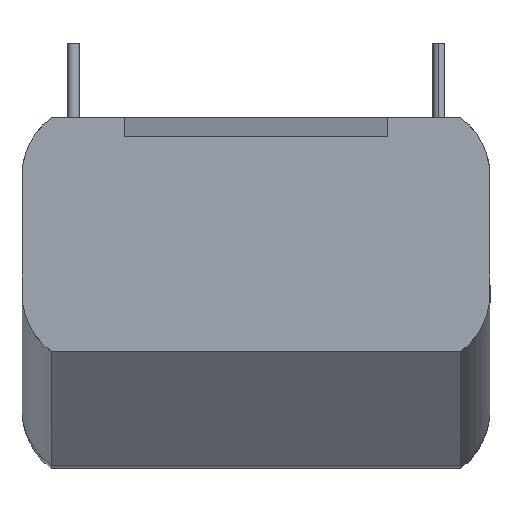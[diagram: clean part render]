
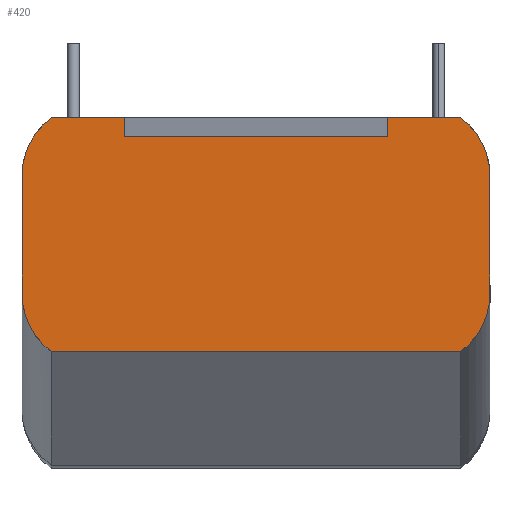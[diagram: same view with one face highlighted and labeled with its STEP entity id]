
A CAD part, left-side view. The second image highlights one B-rep face of the part: STEP entity #420.
In plain terms, the highlighted planar face has unit normal (-1, 0, 0).
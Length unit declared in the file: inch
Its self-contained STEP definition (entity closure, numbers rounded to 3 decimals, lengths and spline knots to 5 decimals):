
#267=B_SPLINE_CURVE_WITH_KNOTS('',3,(#1352,#1353,#1354,#1355,#1356,#1357,
#1358,#1359,#1360,#1361,#1362,#1363,#1364,#1365),.UNSPECIFIED.,.F.,.F.,
(4,2,2,2,2,2,4),(0.,0.125,0.25,0.5,0.625,0.75,
1.),.UNSPECIFIED.);
#268=B_SPLINE_CURVE_WITH_KNOTS('',3,(#1373,#1374,#1375,#1376,#1377,#1378,
#1379,#1380,#1381,#1382,#1383,#1384,#1385,#1386),.UNSPECIFIED.,.F.,.F.,
(4,2,2,2,2,2,4),(0.,0.125,0.25,0.5,0.625,
0.75,1.),.UNSPECIFIED.);
#271=B_SPLINE_CURVE_WITH_KNOTS('',3,(#1414,#1415,#1416,#1417,#1418,#1419,
#1420,#1421,#1422,#1423,#1424,#1425,#1426,#1427),.UNSPECIFIED.,.F.,.F.,
(4,2,2,2,2,2,4),(0.,0.125,0.25,0.5,0.625,0.75,1.),
 .UNSPECIFIED.);
#272=B_SPLINE_CURVE_WITH_KNOTS('',3,(#1433,#1434,#1435,#1436,#1437,#1438,
#1439,#1440,#1441,#1442,#1443,#1444,#1445,#1446),.UNSPECIFIED.,.F.,.F.,
(4,2,2,2,2,2,4),(0.,0.125,0.25,0.5,0.625,0.75,1.),
 .UNSPECIFIED.);
#282=PLANE('',#919);
#323=LINE('',#1337,#364);
#326=LINE('',#1348,#367);
#330=LINE('',#1371,#371);
#333=LINE('',#1392,#374);
#335=LINE('',#1401,#376);
#337=LINE('',#1410,#378);
#342=LINE('',#1450,#383);
#343=LINE('',#1451,#384);
#364=VECTOR('',#1032,1.);
#367=VECTOR('',#1037,1.);
#371=VECTOR('',#1045,1.);
#374=VECTOR('',#1052,1.);
#376=VECTOR('',#1056,1.);
#378=VECTOR('',#1062,1.);
#383=VECTOR('',#1075,1.);
#384=VECTOR('',#1076,1.);
#420=ADVANCED_FACE('',(#468),#282,.T.);
#468=FACE_OUTER_BOUND('',#508,.T.);
#508=EDGE_LOOP('',(#640,#641,#642,#643,#644,#645,#646,#647,#648,#649,#650,
#651));
#640=ORIENTED_EDGE('',*,*,#812,.T.);
#641=ORIENTED_EDGE('',*,*,#817,.F.);
#642=ORIENTED_EDGE('',*,*,#810,.T.);
#643=ORIENTED_EDGE('',*,*,#791,.T.);
#644=ORIENTED_EDGE('',*,*,#807,.T.);
#645=ORIENTED_EDGE('',*,*,#818,.F.);
#646=ORIENTED_EDGE('',*,*,#815,.T.);
#647=ORIENTED_EDGE('',*,*,#795,.T.);
#648=ORIENTED_EDGE('',*,*,#797,.T.);
#649=ORIENTED_EDGE('',*,*,#800,.T.);
#650=ORIENTED_EDGE('',*,*,#801,.T.);
#651=ORIENTED_EDGE('',*,*,#804,.T.);
#722=VERTEX_POINT('',#1335);
#724=VERTEX_POINT('',#1338);
#726=VERTEX_POINT('',#1347);
#727=VERTEX_POINT('',#1349);
#728=VERTEX_POINT('',#1366);
#729=VERTEX_POINT('',#1370);
#730=VERTEX_POINT('',#1387);
#731=VERTEX_POINT('',#1391);
#733=VERTEX_POINT('',#1400);
#735=VERTEX_POINT('',#1411);
#736=VERTEX_POINT('',#1428);
#737=VERTEX_POINT('',#1447);
#791=EDGE_CURVE('',#724,#722,#323,.T.);
#795=EDGE_CURVE('',#727,#726,#326,.T.);
#797=EDGE_CURVE('',#726,#728,#267,.T.);
#800=EDGE_CURVE('',#728,#729,#330,.T.);
#801=EDGE_CURVE('',#729,#730,#268,.T.);
#804=EDGE_CURVE('',#730,#731,#333,.T.);
#807=EDGE_CURVE('',#722,#733,#335,.T.);
#810=EDGE_CURVE('',#735,#724,#337,.T.);
#812=EDGE_CURVE('',#731,#736,#271,.T.);
#815=EDGE_CURVE('',#737,#727,#272,.T.);
#817=EDGE_CURVE('',#735,#736,#342,.T.);
#818=EDGE_CURVE('',#737,#733,#343,.T.);
#919=AXIS2_PLACEMENT_3D('',#1452,#1077,#1078);
#1032=DIRECTION('',(0.,1.,0.));
#1037=DIRECTION('',(0.,0.,-1.));
#1045=DIRECTION('',(0.,-1.,0.));
#1052=DIRECTION('',(0.,0.,1.));
#1056=DIRECTION('',(0.,0.,1.));
#1062=DIRECTION('',(0.,0.,-1.));
#1075=DIRECTION('',(0.,-1.,0.));
#1076=DIRECTION('',(0.,-1.,0.));
#1077=DIRECTION('',(-1.,0.,0.));
#1078=DIRECTION('',(0.,0.,1.));
#1335=CARTESIAN_POINT('',(-16.53543,3.54331,-2.08661));
#1337=CARTESIAN_POINT('',(-16.53543,0.,-2.08661));
#1338=CARTESIAN_POINT('',(-16.53543,-3.54331,-2.08661));
#1347=CARTESIAN_POINT('',(-16.53543,6.29921,-6.29921));
#1348=CARTESIAN_POINT('',(-16.53543,6.29921,-4.72441));
#1349=CARTESIAN_POINT('',(-16.53543,6.29921,-3.14961));
#1352=CARTESIAN_POINT('',(-16.53543,6.29921,-6.29921));
#1353=CARTESIAN_POINT('',(-16.53543,6.29921,-6.37454));
#1354=CARTESIAN_POINT('',(-16.53543,6.29494,-6.44943));
#1355=CARTESIAN_POINT('',(-16.53543,6.27786,-6.59814));
#1356=CARTESIAN_POINT('',(-16.53543,6.26552,-6.67002));
#1357=CARTESIAN_POINT('',(-16.53543,6.21287,-6.89626));
#1358=CARTESIAN_POINT('',(-16.53543,6.16064,-7.04104));
#1359=CARTESIAN_POINT('',(-16.53543,6.05677,-7.24881));
#1360=CARTESIAN_POINT('',(-16.53543,6.01834,-7.31559));
#1361=CARTESIAN_POINT('',(-16.53543,5.93388,-7.44418));
#1362=CARTESIAN_POINT('',(-16.53543,5.88649,-7.50761));
#1363=CARTESIAN_POINT('',(-16.53543,5.74114,-7.68066));
#1364=CARTESIAN_POINT('',(-16.53543,5.6324,-7.78357));
#1365=CARTESIAN_POINT('',(-16.53543,5.51181,-7.87402));
#1366=CARTESIAN_POINT('',(-16.53543,5.51181,-7.87402));
#1370=CARTESIAN_POINT('',(-16.53543,-5.51181,-7.87402));
#1371=CARTESIAN_POINT('',(-16.53543,0.,-7.87402));
#1373=CARTESIAN_POINT('',(-16.53543,-5.51181,-7.87402));
#1374=CARTESIAN_POINT('',(-16.53543,-5.57207,-7.82882));
#1375=CARTESIAN_POINT('',(-16.53543,-5.62942,-7.78047));
#1376=CARTESIAN_POINT('',(-16.53543,-5.73815,-7.67758));
#1377=CARTESIAN_POINT('',(-16.53543,-5.78824,-7.62458));
#1378=CARTESIAN_POINT('',(-16.53543,-5.93764,-7.44671));
#1379=CARTESIAN_POINT('',(-16.53543,-6.02213,-7.31806));
#1380=CARTESIAN_POINT('',(-16.53543,-6.12602,-7.1103));
#1381=CARTESIAN_POINT('',(-16.53543,-6.15639,-7.03949));
#1382=CARTESIAN_POINT('',(-16.53543,-6.20859,-6.89477));
#1383=CARTESIAN_POINT('',(-16.53543,-6.23089,-6.8188));
#1384=CARTESIAN_POINT('',(-16.53543,-6.28213,-6.59869));
#1385=CARTESIAN_POINT('',(-16.53543,-6.29921,-6.44995));
#1386=CARTESIAN_POINT('',(-16.53543,-6.29921,-6.29921));
#1387=CARTESIAN_POINT('',(-16.53543,-6.29921,-6.29921));
#1391=CARTESIAN_POINT('',(-16.53543,-6.29921,-3.14961));
#1392=CARTESIAN_POINT('',(-16.53543,-6.29921,-4.72441));
#1400=CARTESIAN_POINT('',(-16.53543,3.54331,-1.5748));
#1401=CARTESIAN_POINT('',(-16.53543,3.54331,-4.72441));
#1410=CARTESIAN_POINT('',(-16.53543,-3.54331,-4.72441));
#1411=CARTESIAN_POINT('',(-16.53543,-3.54331,-1.5748));
#1414=CARTESIAN_POINT('',(-16.53543,-6.29921,-3.14961));
#1415=CARTESIAN_POINT('',(-16.53543,-6.29921,-3.07428));
#1416=CARTESIAN_POINT('',(-16.53543,-6.29494,-2.99939));
#1417=CARTESIAN_POINT('',(-16.53543,-6.27786,-2.85068));
#1418=CARTESIAN_POINT('',(-16.53543,-6.26552,-2.7788));
#1419=CARTESIAN_POINT('',(-16.53543,-6.21287,-2.55256));
#1420=CARTESIAN_POINT('',(-16.53543,-6.16064,-2.40778));
#1421=CARTESIAN_POINT('',(-16.53543,-6.05677,-2.20001));
#1422=CARTESIAN_POINT('',(-16.53543,-6.01834,-2.13323));
#1423=CARTESIAN_POINT('',(-16.53543,-5.93388,-2.00464));
#1424=CARTESIAN_POINT('',(-16.53543,-5.88649,-1.94121));
#1425=CARTESIAN_POINT('',(-16.53543,-5.74114,-1.76816));
#1426=CARTESIAN_POINT('',(-16.53543,-5.6324,-1.66525));
#1427=CARTESIAN_POINT('',(-16.53543,-5.51181,-1.5748));
#1428=CARTESIAN_POINT('',(-16.53543,-5.51181,-1.5748));
#1433=CARTESIAN_POINT('',(-16.53543,5.51181,-1.5748));
#1434=CARTESIAN_POINT('',(-16.53543,5.57207,-1.62));
#1435=CARTESIAN_POINT('',(-16.53543,5.62942,-1.66835));
#1436=CARTESIAN_POINT('',(-16.53543,5.73815,-1.77124));
#1437=CARTESIAN_POINT('',(-16.53543,5.78824,-1.82424));
#1438=CARTESIAN_POINT('',(-16.53543,5.93764,-2.0021));
#1439=CARTESIAN_POINT('',(-16.53543,6.02213,-2.13076));
#1440=CARTESIAN_POINT('',(-16.53543,6.12602,-2.33852));
#1441=CARTESIAN_POINT('',(-16.53543,6.15639,-2.40933));
#1442=CARTESIAN_POINT('',(-16.53543,6.20859,-2.55405));
#1443=CARTESIAN_POINT('',(-16.53543,6.23089,-2.63002));
#1444=CARTESIAN_POINT('',(-16.53543,6.28213,-2.85013));
#1445=CARTESIAN_POINT('',(-16.53543,6.29921,-2.99886));
#1446=CARTESIAN_POINT('',(-16.53543,6.29921,-3.14961));
#1447=CARTESIAN_POINT('',(-16.53543,5.51181,-1.5748));
#1450=CARTESIAN_POINT('',(-16.53543,0.,-1.5748));
#1451=CARTESIAN_POINT('',(-16.53543,0.,-1.5748));
#1452=CARTESIAN_POINT('',(-16.53543,-6.29921,-7.87402));
